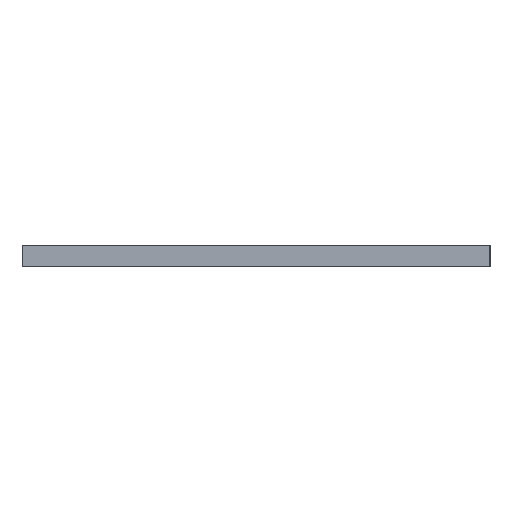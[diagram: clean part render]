
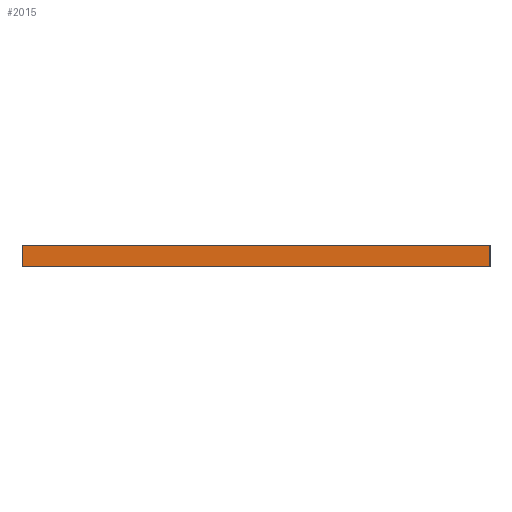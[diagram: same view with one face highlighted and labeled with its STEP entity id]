
A CAD part, left-side view. The second image highlights one B-rep face of the part: STEP entity #2015.
In plain terms, the highlighted planar face has unit normal (-1, 0, 0).
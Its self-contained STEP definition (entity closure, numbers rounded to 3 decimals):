
#1=DIRECTION('',(0.,1.,0.));
#2=VECTOR('',#1,22.);
#3=CARTESIAN_POINT('',(-25.,-11.,0.));
#4=LINE('',#3,#2);
#5=DIRECTION('',(0.,0.,-1.));
#6=VECTOR('',#5,1.);
#7=CARTESIAN_POINT('',(-25.,-11.,1.));
#8=LINE('',#7,#6);
#13=DIRECTION('',(0.,0.,-1.));
#14=VECTOR('',#13,1.);
#15=CARTESIAN_POINT('',(-25.,11.,1.));
#16=LINE('',#15,#14);
#33=DIRECTION('',(0.,1.,0.));
#34=VECTOR('',#33,22.);
#35=CARTESIAN_POINT('',(-25.,-11.,1.));
#36=LINE('',#35,#34);
#1489=CARTESIAN_POINT('',(-25.,-11.,0.));
#1490=CARTESIAN_POINT('',(-25.,11.,0.));
#1491=VERTEX_POINT('',#1489);
#1492=VERTEX_POINT('',#1490);
#1497=CARTESIAN_POINT('',(-25.,11.,1.));
#1498=VERTEX_POINT('',#1497);
#1499=CARTESIAN_POINT('',(-25.,-11.,1.));
#1500=VERTEX_POINT('',#1499);
#2001=CARTESIAN_POINT('',(-25.,11.,0.));
#2002=DIRECTION('',(-1.,0.,0.));
#2003=DIRECTION('',(0.,-1.,0.));
#2004=AXIS2_PLACEMENT_3D('',#2001,#2002,#2003);
#2005=PLANE('',#2004);
#2006=ORIENTED_EDGE('',*,*,#1990,.T.);
#2008=ORIENTED_EDGE('',*,*,#2007,.F.);
#2010=ORIENTED_EDGE('',*,*,#2009,.F.);
#2012=ORIENTED_EDGE('',*,*,#2011,.T.);
#2013=EDGE_LOOP('',(#2006,#2008,#2010,#2012));
#2014=FACE_OUTER_BOUND('',#2013,.F.);
#2015=ADVANCED_FACE('',(#2014),#2005,.T.);
#1990=EDGE_CURVE('',#1491,#1492,#4,.T.);
#2007=EDGE_CURVE('',#1498,#1492,#16,.T.);
#2009=EDGE_CURVE('',#1500,#1498,#36,.T.);
#2011=EDGE_CURVE('',#1500,#1491,#8,.T.);
